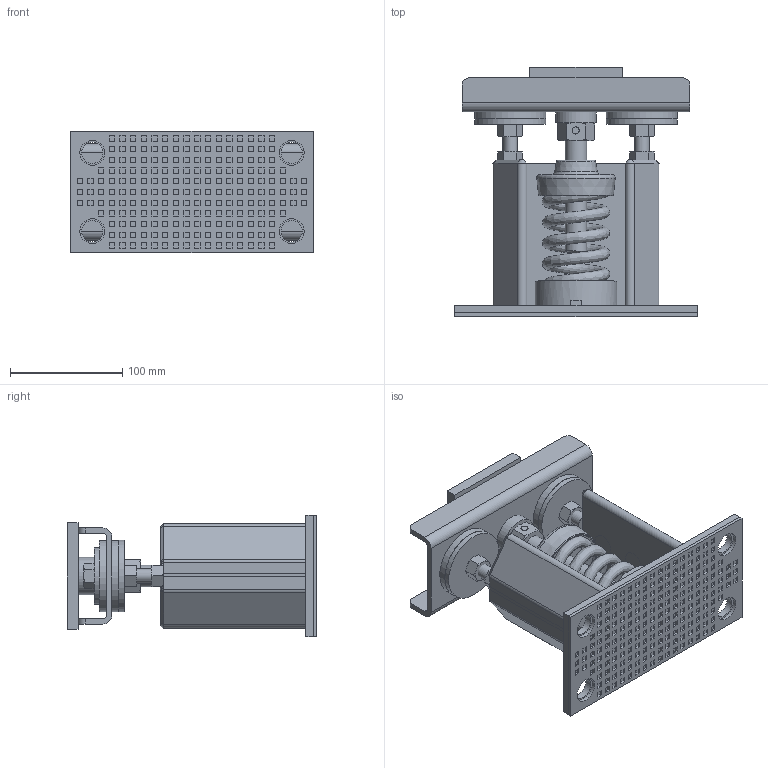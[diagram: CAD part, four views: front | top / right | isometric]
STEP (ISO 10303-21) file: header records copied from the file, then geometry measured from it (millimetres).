
FILE_DESCRIPTION(/* description */ (''),/* implementation_level */ '2;1');
FILE_NAME(/* name */ 'C:\2014_Work\SLRSO-B-1000.stp',/* time_stamp */ '2014-05-12T18:48:38-04:00',/* author */ ('mleuck'),/* organization */ (''),/* preprocessor_version */ 'ST-DEVELOPER v15.2',/* originating_system */ 'Autodesk Inventor 2014',/* authorisation */ '');
FILE_SCHEMA (('AUTOMOTIVE_DESIGN { 1 0 10303 214 3 1 1 }'));
Length unit declared in the file: inch
Products named in the file (37): SLRS-B BACK STANCHION (D-4257-4); SLRS-B BASE PLATE (D-4257-4); SLRS-B SIDE STANCHION (D-4257-4); SLRS-B STANCHION SQUARE BAR (D-4257-4); SLRS-B PART A (D-4257-4); SLRS-B PART B (D-4257-4); SLRS-B PART B WELD (D-4257-4); SLRS-B PART A WELD (D-4257-4); SLRS-B PART A MIRRORED (D-4257-4); SLRS-B PART B MIRRORED (D-4257-4); SLRS-B PART B WELD MIRRORED (D-4257-4); SLRS-B PART A WELD MIRRORED (D-4257-4); SLRS-B VERTICAL WELD (D-4257-4); SLRS-B PLUG WELD (D-4257-4); SLRS-B BASE ASSEMBLY (D-4257-4); SLRS-B TOP CHANNEL (D-4258-2); SLRS-B BOLTING PLATE (D-4258-2); SLRS-B TOP CHANNEL LOWER PIPE (D-4258-2); ANSI - 1 x 0.133 - 1.0625; SLRS-B TOP CHANNEL ASSEMBLY (D-4258-2).ipt; SLRS-B RESTRAINING BOLT (D-4259-3); SLRS-B RESTRAINING WASHER (D-4259-3); SLRS-B TOP CHANNEL GROMMET (A-27423); SLRS-B SPRING TOP CASTING (A-27424-1); SLRS-B LOWER CUP NEOPRENE (A-27429-1); SLRS-B LOWER CUP WASHER (A-27429-1); SLRS-B LOWER CUP ASSEMBLY (A-27429-1).ipt; SLRS-B ADJUSTMENT BOLT STUD (D-4259-3); ANSI B18.2.2 - 3_4 - 10(2); SLRS-B ADJUSTMENT BOLT PIN (D-4259-3); SLRS-B ADJUSTMENT BOLT ASSEMBLY (D-4259-3); SLRS-B RESTRAINING WASHER 2 (D-4259-3); ANSI B18.2.2 - 1_2 - 13(2); SLRS-B FULL ASSEMBLY WOS WOP (D-4259-3); SLRS-B BASE PAD (A-27422); SPRING B-1000 FH (BLUE); SLRSO-B-1000
Bounding box: 215.9 x 222.25 x 107.95 mm (x, y, z)
Volume: 1062715.9 mm3; surface area: 515890.5 mm2
Topology: 46 solids, 47 shells, 1821 faces, 4319 edges, 2821 vertices
Faces by surface type: plane 1483, bspline 116, cylinder 115, cone 99, torus 8
Full cylindrical faces by diameter (mm): 1.221 x4, 6.35 x4, 12.7 x9, 14.287 x6, 15.875 x4, 16.307 x1, 19.05 x20, 20.637 x1, 22.225 x4, 23.812 x1, 25.4 x2, 26.645 x1, 31.75 x4, 33.401 x1, 36.512 x1, 50.8 x2, 60.325 x1, 63.5 x8, 73.025 x1
Entity records: 51169 total; most frequent: CARTESIAN_POINT 12676, ORIENTED_EDGE 7794, DIRECTION 7098, EDGE_CURVE 3897, LINE 3354, VECTOR 3354, VERTEX_POINT 2602, EDGE_LOOP 2031
